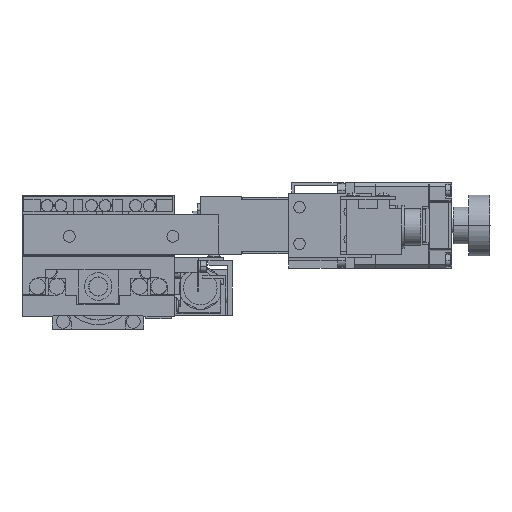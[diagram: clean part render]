
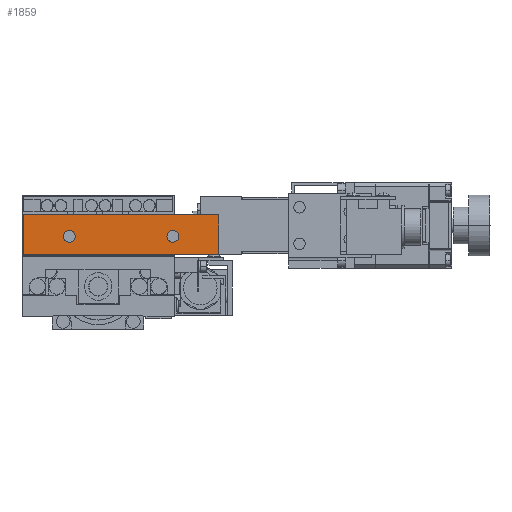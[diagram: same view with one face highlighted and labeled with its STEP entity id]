
A CAD part, left-side view. The second image highlights one B-rep face of the part: STEP entity #1859.
In plain terms, the highlighted planar face has unit normal (-1, 0, 0).
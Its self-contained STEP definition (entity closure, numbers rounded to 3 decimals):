
#1859=ADVANCED_FACE('',(#4855,#4856,#4857),#4858,.F.);
#4855=FACE_BOUND('',#8189,.T.);
#4856=FACE_BOUND('',#8190,.T.);
#4857=FACE_OUTER_BOUND('',#8191,.T.);
#4858=PLANE('',#8192);
#8189=EDGE_LOOP('',(#18974,#18975));
#8190=EDGE_LOOP('',(#18976,#18977));
#8191=EDGE_LOOP('',(#18978,#18979,#18980,#18981));
#8192=AXIS2_PLACEMENT_3D('',#18982,#18983,#18984);
#18974=ORIENTED_EDGE('',*,*,#24669,.T.);
#18975=ORIENTED_EDGE('',*,*,#24642,.T.);
#18976=ORIENTED_EDGE('',*,*,#24670,.T.);
#18977=ORIENTED_EDGE('',*,*,#24646,.T.);
#18978=ORIENTED_EDGE('',*,*,#24671,.T.);
#18979=ORIENTED_EDGE('',*,*,#24672,.F.);
#18980=ORIENTED_EDGE('',*,*,#24673,.F.);
#18981=ORIENTED_EDGE('',*,*,#24666,.T.);
#18982=CARTESIAN_POINT('',(-41.8,-39.5,33.5));
#18983=DIRECTION('',(1.0,0.,0.0));
#18984=DIRECTION('',(0.0,0.0,-1.0));
#24642=EDGE_CURVE('',#30654,#30658,#30660,.T.);
#24646=EDGE_CURVE('',#30662,#30666,#30668,.T.);
#24666=EDGE_CURVE('',#30706,#30704,#30707,.T.);
#24669=EDGE_CURVE('',#30658,#30654,#30711,.T.);
#24670=EDGE_CURVE('',#30666,#30662,#30712,.T.);
#24671=EDGE_CURVE('',#30704,#30713,#30714,.T.);
#24672=EDGE_CURVE('',#30715,#30713,#30716,.T.);
#24673=EDGE_CURVE('',#30706,#30715,#30717,.T.);
#30654=VERTEX_POINT('',#39575);
#30658=VERTEX_POINT('',#39580);
#30660=CIRCLE('',#39583,1.95);
#30662=VERTEX_POINT('',#39585);
#30666=VERTEX_POINT('',#39590);
#30668=CIRCLE('',#39593,1.95);
#30704=VERTEX_POINT('',#39643);
#30706=VERTEX_POINT('',#39646);
#30707=LINE('',#39647,#39648);
#30711=CIRCLE('',#39654,1.95);
#30712=CIRCLE('',#39655,1.95);
#30713=VERTEX_POINT('',#39656);
#30714=LINE('',#39657,#39658);
#30715=VERTEX_POINT('',#39659);
#30716=LINE('',#39660,#39661);
#30717=LINE('',#39662,#39663);
#39575=CARTESIAN_POINT('',(-41.8,7.55,26.5));
#39580=CARTESIAN_POINT('',(-41.8,11.45,26.5));
#39583=AXIS2_PLACEMENT_3D('',#46840,#46841,#46842);
#39585=CARTESIAN_POINT('',(-41.8,-26.45,26.5));
#39590=CARTESIAN_POINT('',(-41.8,-22.55,26.5));
#39593=AXIS2_PLACEMENT_3D('',#46848,#46849,#46850);
#39643=CARTESIAN_POINT('',(-41.8,24.5,33.5));
#39646=CARTESIAN_POINT('',(-41.8,-39.5,33.5));
#39647=CARTESIAN_POINT('',(-41.8,-39.5,33.5));
#39648=VECTOR('',#46878,1000.0);
#39654=AXIS2_PLACEMENT_3D('',#46881,#46882,#46883);
#39655=AXIS2_PLACEMENT_3D('',#46884,#46885,#46886);
#39656=CARTESIAN_POINT('',(-41.8,24.5,20.5));
#39657=CARTESIAN_POINT('',(-41.8,24.5,33.5));
#39658=VECTOR('',#46887,1000.0);
#39659=CARTESIAN_POINT('',(-41.8,-39.5,20.5));
#39660=CARTESIAN_POINT('',(-41.8,-39.5,20.5));
#39661=VECTOR('',#46888,1000.0);
#39662=CARTESIAN_POINT('',(-41.8,-39.5,33.5));
#39663=VECTOR('',#46889,1000.0);
#46840=CARTESIAN_POINT('',(-41.8,9.5,26.5));
#46841=DIRECTION('',(1.0,0.,0.0));
#46842=DIRECTION('',(0.,1.0,0.0));
#46848=CARTESIAN_POINT('',(-41.8,-24.5,26.5));
#46849=DIRECTION('',(1.0,0.,0.0));
#46850=DIRECTION('',(0.,1.0,0.0));
#46878=DIRECTION('',(0.,1.0,0.0));
#46881=CARTESIAN_POINT('',(-41.8,9.5,26.5));
#46882=DIRECTION('',(1.0,0.,0.0));
#46883=DIRECTION('',(0.,1.0,0.0));
#46884=CARTESIAN_POINT('',(-41.8,-24.5,26.5));
#46885=DIRECTION('',(1.0,0.,0.0));
#46886=DIRECTION('',(0.,1.0,0.0));
#46887=DIRECTION('',(0.0,0.0,-1.0));
#46888=DIRECTION('',(0.,1.0,0.0));
#46889=DIRECTION('',(0.0,0.0,-1.0));
